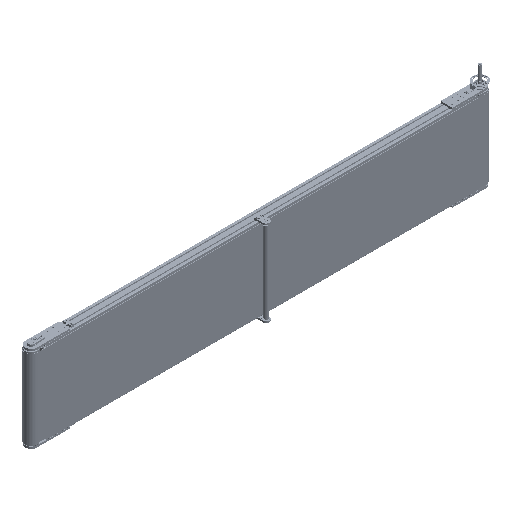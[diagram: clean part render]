
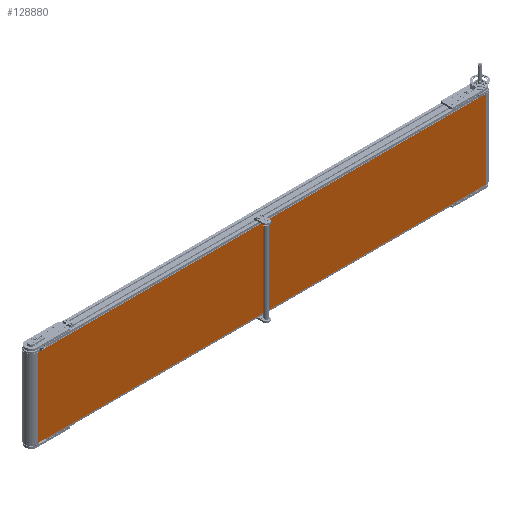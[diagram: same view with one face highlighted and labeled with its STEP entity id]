
A CAD part, isometric view. The second image highlights one B-rep face of the part: STEP entity #128880.
In plain terms, the highlighted planar face has unit normal (0, -1, 0).
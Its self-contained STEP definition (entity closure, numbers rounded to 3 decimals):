
#4431 = ORIENTED_EDGE ( 'NONE', *, *, #21060, .F. ) ;
#12953 = VERTEX_POINT ( 'NONE', #27956 ) ;
#16079 = VERTEX_POINT ( 'NONE', #125305 ) ;
#19310 = VECTOR ( 'NONE', #91508, 1000. ) ;
#21060 = EDGE_CURVE ( 'NONE', #101750, #16079, #63585, .T. ) ;
#26620 = CARTESIAN_POINT ( 'NONE',  ( 1715.5, -49.5, 300. ) ) ;
#27956 = CARTESIAN_POINT ( 'NONE',  ( 1715.5, -49.5, -300. ) ) ;
#34704 = AXIS2_PLACEMENT_3D ( 'NONE', #130786, #63189, #50489 ) ;
#47444 = EDGE_CURVE ( 'NONE', #50656, #12953, #121606, .T. ) ;
#50072 = VECTOR ( 'NONE', #61855, 1000. ) ;
#50489 = DIRECTION ( 'NONE',  ( 0., 0., 1. ) ) ;
#50656 = VERTEX_POINT ( 'NONE', #145362 ) ;
#53397 = DIRECTION ( 'NONE',  ( 0., 0., -1. ) ) ;
#55477 = ORIENTED_EDGE ( 'NONE', *, *, #47444, .T. ) ;
#61379 = DIRECTION ( 'NONE',  ( 1., 0., 0. ) ) ;
#61855 = DIRECTION ( 'NONE',  ( 0., 0., -1. ) ) ;
#63189 = DIRECTION ( 'NONE',  ( 0., 1., 0. ) ) ;
#63585 = LINE ( 'NONE', #129695, #90884 ) ;
#63977 = ORIENTED_EDGE ( 'NONE', *, *, #127857, .T. ) ;
#68531 = CARTESIAN_POINT ( 'NONE',  ( -1715.5, -49.5, 300. ) ) ;
#72799 = VECTOR ( 'NONE', #53397, 1000. ) ;
#77358 = LINE ( 'NONE', #78099, #72799 ) ;
#78099 = CARTESIAN_POINT ( 'NONE',  ( -1715.5, -49.5, 300. ) ) ;
#80237 = CARTESIAN_POINT ( 'NONE',  ( -1715.5, -49.5, -300. ) ) ;
#86872 = EDGE_LOOP ( 'NONE', ( #55477, #146901, #4431, #63977 ) ) ;
#87211 = FACE_OUTER_BOUND ( 'NONE', #86872, .T. ) ;
#90884 = VECTOR ( 'NONE', #61379, 1000. ) ;
#91508 = DIRECTION ( 'NONE',  ( 1., 0., 0. ) ) ;
#96217 = PLANE ( 'NONE',  #34704 ) ;
#101750 = VERTEX_POINT ( 'NONE', #68531 ) ;
#121606 = LINE ( 'NONE', #80237, #19310 ) ;
#125305 = CARTESIAN_POINT ( 'NONE',  ( 1715.5, -49.5, 300. ) ) ;
#127857 = EDGE_CURVE ( 'NONE', #101750, #50656, #77358, .T. ) ;
#128880 = ADVANCED_FACE ( 'NONE', ( #87211 ), #96217, .F. ) ;
#129423 = LINE ( 'NONE', #26620, #50072 ) ;
#129695 = CARTESIAN_POINT ( 'NONE',  ( -1715.5, -49.5, 300. ) ) ;
#130786 = CARTESIAN_POINT ( 'NONE',  ( -1715.5, -49.5, 300. ) ) ;
#137929 = EDGE_CURVE ( 'NONE', #16079, #12953, #129423, .T. ) ;
#145362 = CARTESIAN_POINT ( 'NONE',  ( -1715.5, -49.5, -300. ) ) ;
#146901 = ORIENTED_EDGE ( 'NONE', *, *, #137929, .F. ) ;
